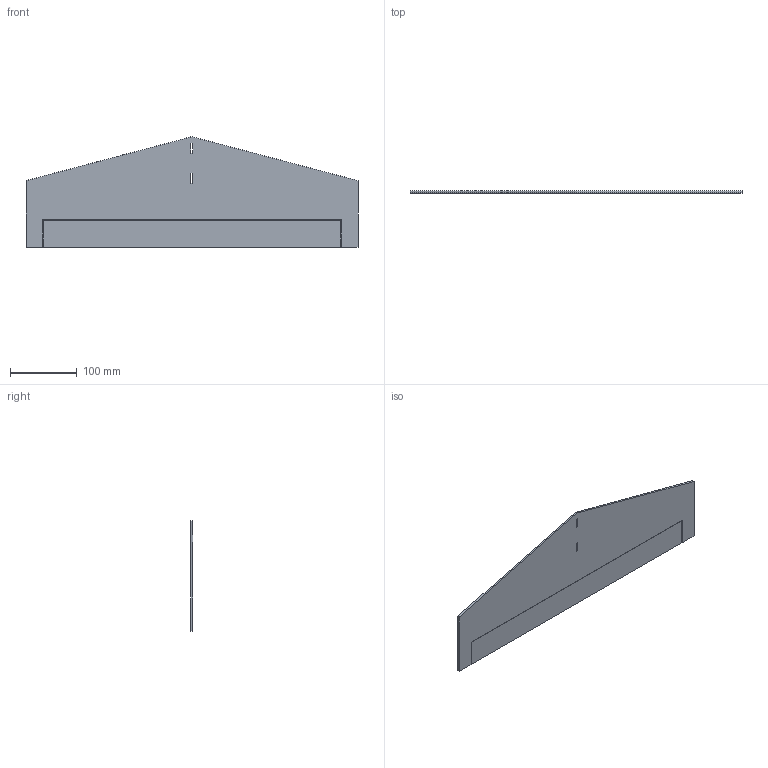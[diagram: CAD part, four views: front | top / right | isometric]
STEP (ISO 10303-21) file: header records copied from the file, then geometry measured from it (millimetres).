
FILE_DESCRIPTION(/* description */ (''),/* implementation_level */ '2;1');
FILE_NAME(/* name */ 'Horizontal Stabilizer.step',/* time_stamp */ '2023-08-12T23:54:42+03:00',/* author */ (''),/* organization */ (''),/* preprocessor_version */ 'ST-DEVELOPER v20',/* originating_system */ 'Autodesk Translation Framework v12.9.0.99',/* authorisation */ '');
FILE_SCHEMA (('AUTOMOTIVE_DESIGN { 1 0 10303 214 3 1 1 }'));
Length unit declared in the file: millimetre
Products named in the file (1): Horizontal Stabilizer (2)
Bounding box: 498 x 3 x 166 mm (x, y, z)
Volume: 196844.4 mm3; surface area: 138254.4 mm2
Topology: 2 solids, 2 shells, 25 faces, 63 edges, 42 vertices
Faces by surface type: plane 25
Entity records: 777 total; most frequent: CARTESIAN_POINT 131, ORIENTED_EDGE 126, DIRECTION 115, LINE 63, VECTOR 63, EDGE_CURVE 63, VERTEX_POINT 42, EDGE_LOOP 29
